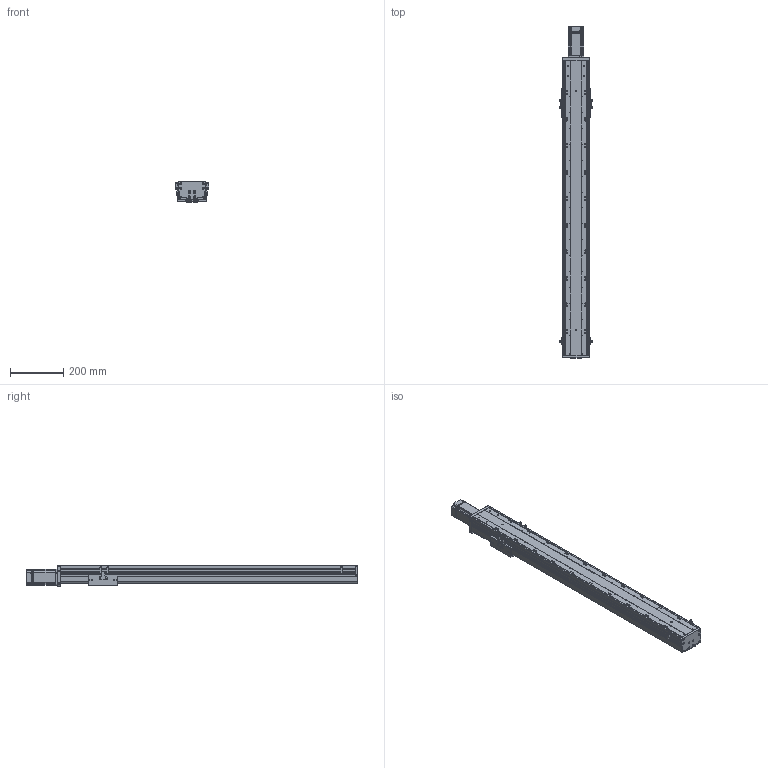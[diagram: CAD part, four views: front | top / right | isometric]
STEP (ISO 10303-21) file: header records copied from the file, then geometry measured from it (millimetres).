
FILE_DESCRIPTION (( 'STEP AP203' ), '1' );
FILE_NAME ('RY100FBS-L1610-300-MK(15双轨）.SLDASM_850.step', '2022-06-22T07:41:56', ( '' ), ( '' ), 'SwSTEP 2.0', 'SolidWorks 2016', '' );
FILE_SCHEMA (( 'CONFIG_CONTROL_DESIGN' ));
Length unit declared in the file: millimetre
Products named in the file (12): RY100FBS-铝滑块（16丝杆）; 滅袉蝶18-15; 覜茼ん672; RY100FBS-300型材底座(15双轨）_850; RY100FB-遵嫖萇覜茼え; RY100FBS-L1610-300-MK(15双轨）.SLDASM_850; 15; RY100FBS-300-上盖板(15双轨）_850; RY100FBS-后盖板(15双轨）; 滅袉蝶18-24; 侂狟400W侜督萇儂; RY100FBS-前盖板(15双轨）
Assembly tree (18 placements, depth 3):
  RY100FBS-L1610-300-MK(15双轨）.SLDASM_850
    RY100FBS-300型材底座(15双轨）_850
    滅袉蝶18-24  x2
    滅袉蝶18-15
    RY100FBS-铝滑块（16丝杆）
    RY100FBS-300-上盖板(15双轨）_850
    RY100FBS-前盖板(15双轨）
    RY100FBS-后盖板(15双轨）
    侂狟400W侜督萇儂
      15
    RY100FB-遵嫖萇覜茼え  x2
    覜茼ん672  x6
Bounding box: 127.4 x 1250.5 x 78.75 mm (x, y, z)
Volume: 2831246.2 mm3; surface area: 1009159.6 mm2
Topology: 17 solids, 17 shells, 1845 faces, 5281 edges, 3464 vertices
Faces by surface type: plane 881, cylinder 832, cone 114, bspline 18
Entity records: 49550 total; most frequent: CARTESIAN_POINT 10375, DIRECTION 8008, ORIENTED_EDGE 7906, EDGE_CURVE 3953, AXIS2_PLACEMENT_3D 2911, VERTEX_POINT 2612, VECTOR 2186, LINE 2186
